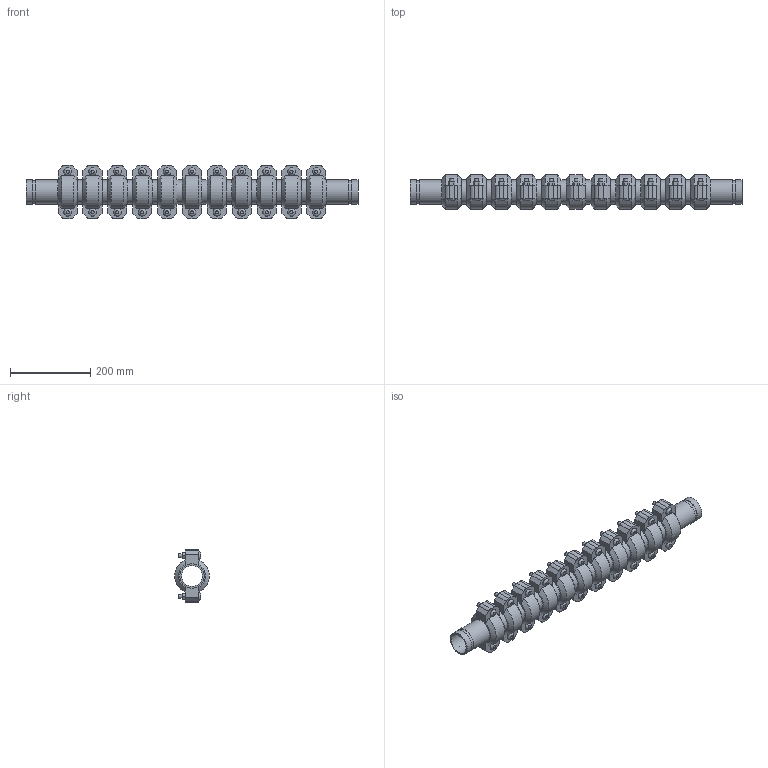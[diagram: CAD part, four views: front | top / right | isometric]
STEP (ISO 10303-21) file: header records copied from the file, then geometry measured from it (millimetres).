
FILE_DESCRIPTION(/* description */ ('VIC SS EXPANSION JOINT 11 COUPLINGS EXPANDED STYLE 155P (OGS) (POTABLE WATER) ','CAx-IF Rec.Pracs.---Representation and Presentation of Product Manufacturing Information (PMI)---4.0---2014-10-13'),/* implementation_level */ '2;1');
FILE_NAME(/* name */ 'C:\Users\kkamble\AppData\Roaming\Autodesk\ApplicationPlugins\Victaulic.Temp\A494\Victaulic_SS_Expansion Joint_Expanded_11 Couplings_Style 155P (OGS)-Potable Water_11 Coup_Expd_2 (50).stp',/* time_stamp */ '2021-07-16T16:46:05+05:00',/* author */ ('kkamble'),/* organization */ ('Victaulic'),/* preprocessor_version */ 'ST-DEVELOPER v17.2',/* originating_system */ 'Autodesk Inventor 2019',/* authorisation */ '');
FILE_SCHEMA (('AP242_MANAGED_MODEL_BASED_3D_ENGINEERING_MIM_LF { 1 0 10303 442 1 1 4 }'));
Length unit declared in the file: inch
Products named in the file (4): 155P-02.0; Nipple-02.0; Nipple-02.0_1; 075-02.0
Assembly tree (23 placements, depth 2):
  155P-02.0
    Nipple-02.0  x2
    Nipple-02.0_1  x10
    075-02.0  x11
Bounding box: 827.28 x 87.12 x 132.59 mm (x, y, z)
Volume: 2715417 mm3; surface area: 754250.7 mm2
Topology: 23 solids, 45 shells, 771 faces, 1823 edges, 1278 vertices
Faces by surface type: plane 468, cylinder 237, cone 44, bspline 22
Full cylindrical faces by diameter (mm): 9.525 x44, 11.43 x22, 52.502 x12, 53.975 x11, 57.15 x24, 60.325 x58
Entity records: 2888 total; most frequent: CARTESIAN_POINT 507, DIRECTION 489, ORIENTED_EDGE 386, AXIS2_PLACEMENT_3D 198, EDGE_CURVE 193, VERTEX_POINT 138, EDGE_LOOP 107, LINE 93
